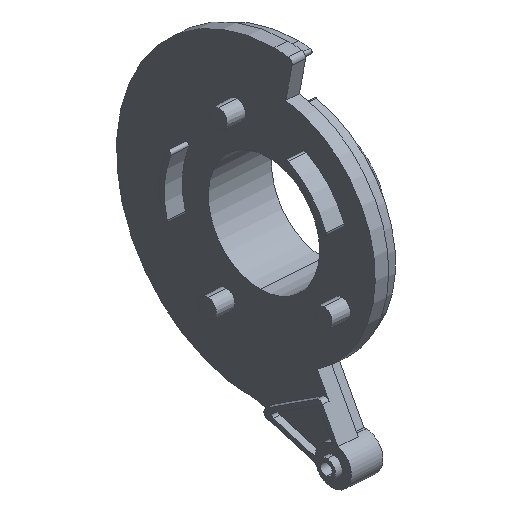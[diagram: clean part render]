
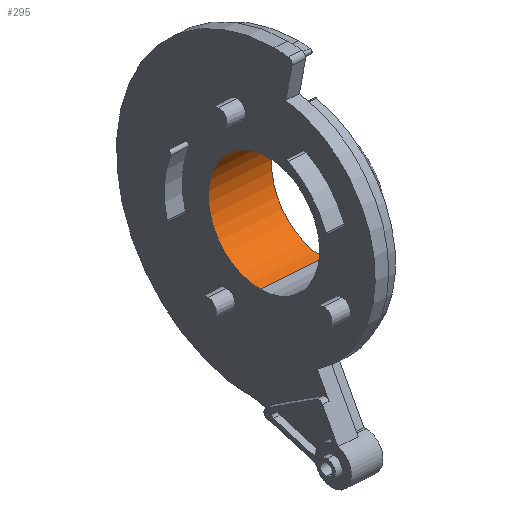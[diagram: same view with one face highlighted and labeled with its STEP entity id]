
A CAD part, isometric view. The second image highlights one B-rep face of the part: STEP entity #295.
In plain terms, the highlighted cylindrical face has radius 12.25 mm (diameter 24.5 mm), a partial arc.
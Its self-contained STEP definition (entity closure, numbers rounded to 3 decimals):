
#45 = CARTESIAN_POINT ( 'NONE',  ( 61.443, 72.395, 173.182 ) ) ;
#89 = DIRECTION ( 'NONE',  ( -0.998, 0., 0.067 ) ) ;
#90 = DIRECTION ( 'NONE',  ( -0.998, 0., 0.067 ) ) ;
#117 = VERTEX_POINT ( 'NONE', #1360 ) ;
#226 = ORIENTED_EDGE ( 'NONE', *, *, #2403, .F. ) ;
#295 = ADVANCED_FACE ( 'NONE', ( #634 ), #2525, .F. ) ;
#484 = VERTEX_POINT ( 'NONE', #1494 ) ;
#488 = DIRECTION ( 'NONE',  ( -0.998, 0., 0.067 ) ) ;
#554 = VERTEX_POINT ( 'NONE', #840 ) ;
#566 = ORIENTED_EDGE ( 'NONE', *, *, #2666, .T. ) ;
#634 = FACE_OUTER_BOUND ( 'NONE', #2885, .T. ) ;
#676 = ORIENTED_EDGE ( 'NONE', *, *, #836, .T. ) ;
#781 = DIRECTION ( 'NONE',  ( -0.998, 0., 0.067 ) ) ;
#807 = DIRECTION ( 'NONE',  ( 0.067, 0., 0.998 ) ) ;
#815 = CARTESIAN_POINT ( 'NONE',  ( 62.265, 72.395, 185.404 ) ) ;
#836 = EDGE_CURVE ( 'NONE', #928, #554, #2479, .T. ) ;
#840 = CARTESIAN_POINT ( 'NONE',  ( 60.62, 72.395, 160.959 ) ) ;
#912 = CARTESIAN_POINT ( 'NONE',  ( 60.62, 72.395, 160.959 ) ) ;
#928 = VERTEX_POINT ( 'NONE', #815 ) ;
#983 = DIRECTION ( 'NONE',  ( 0.067, 0., 0.998 ) ) ;
#1225 = ORIENTED_EDGE ( 'NONE', *, *, #1865, .F. ) ;
#1360 = CARTESIAN_POINT ( 'NONE',  ( 74.589, 72.395, 160.02 ) ) ;
#1413 = DIRECTION ( 'NONE',  ( 0.067, 0., 0.998 ) ) ;
#1494 = CARTESIAN_POINT ( 'NONE',  ( 76.234, 72.395, 184.464 ) ) ;
#1700 = AXIS2_PLACEMENT_3D ( 'NONE', #45, #488, #983 ) ;
#1862 = LINE ( 'NONE', #912, #2399 ) ;
#1865 = EDGE_CURVE ( 'NONE', #484, #117, #2035, .T. ) ;
#2012 = DIRECTION ( 'NONE',  ( -0.998, 0., 0.067 ) ) ;
#2035 = CIRCLE ( 'NONE', #2389, 12.25 ) ;
#2173 = VECTOR ( 'NONE', #90, 1000. ) ;
#2389 = AXIS2_PLACEMENT_3D ( 'NONE', #2782, #89, #1413 ) ;
#2399 = VECTOR ( 'NONE', #2012, 1000. ) ;
#2403 = EDGE_CURVE ( 'NONE', #117, #554, #1862, .T. ) ;
#2479 = CIRCLE ( 'NONE', #2508, 12.25 ) ;
#2508 = AXIS2_PLACEMENT_3D ( 'NONE', #2778, #781, #807 ) ;
#2525 = CYLINDRICAL_SURFACE ( 'NONE', #1700, 12.25 ) ;
#2666 = EDGE_CURVE ( 'NONE', #484, #928, #2790, .T. ) ;
#2778 = CARTESIAN_POINT ( 'NONE',  ( 61.443, 72.395, 173.182 ) ) ;
#2782 = CARTESIAN_POINT ( 'NONE',  ( 75.411, 72.395, 172.242 ) ) ;
#2785 = CARTESIAN_POINT ( 'NONE',  ( 62.265, 72.395, 185.404 ) ) ;
#2790 = LINE ( 'NONE', #2785, #2173 ) ;
#2885 = EDGE_LOOP ( 'NONE', ( #226, #1225, #566, #676 ) ) ;
